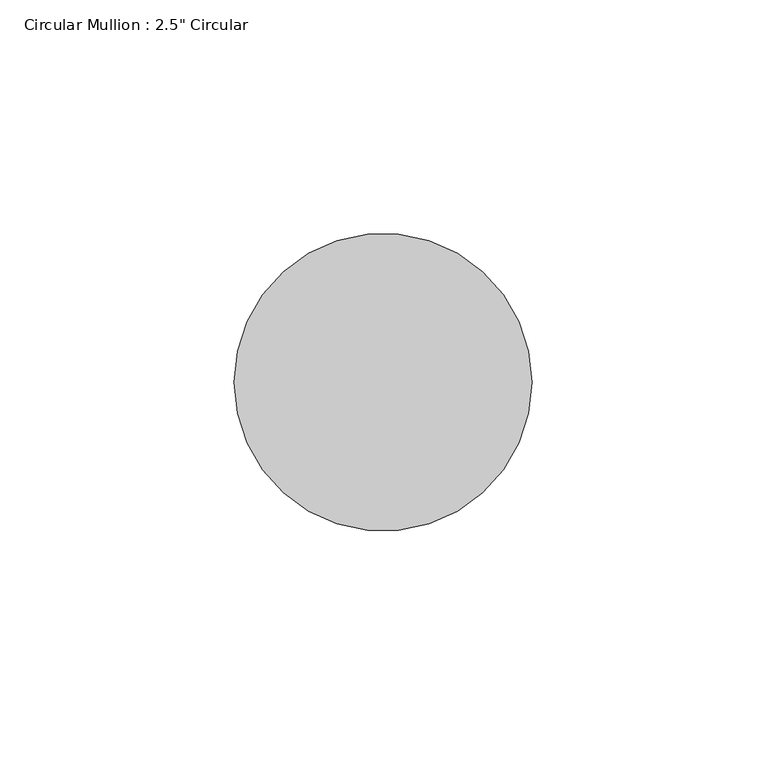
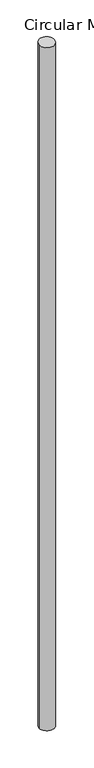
"""IFC4 building model written with IfcOpenShell, lengths in millimetres: member geometry."""

from ifc_helpers import new_model, si_unit, frame, origin, origin_with_axes, place, context, project, spatial, ellipse_curve, source, transform, mapped, element, save
from ifc_brep_helpers import plane_surface, cylinder_surface, advanced_brep


def member_2384c193(model_context):
    return source(origin(), model_context, "Body", "AdvancedBrep", [
        advanced_brep(
        [(-31.75, 0.0, -0.1934303), (31.75, 0.0, 0.1934303), (31.75, 0.0, -2984.1009331), (-31.75, 0.0, -2983.7686119)],
        [
            (0, 1, ellipse_curve(frame((0.0, 0.0, 0.0), z_axis=(0.006080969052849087, 0.060638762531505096, -0.9981412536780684), x_axis=(0.0995959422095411, 0.9931599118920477, 0.060942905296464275)), 31.8091251, 31.75)),
            (1, 2),
            (2, 3, ellipse_curve(frame((0.0, 0.0, -2983.9347725), z_axis=(0.005227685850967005, 0.04644329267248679, 0.9989072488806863), x_axis=(-0.11173203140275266, -0.9926387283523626, 0.04673658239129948)), 31.7847328, 31.75)),
            (3, 0),
            (1, 0, ellipse_curve(frame((0.0, 0.0, 0.0), z_axis=(0.006080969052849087, 0.060638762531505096, -0.9981412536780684), x_axis=(0.0995959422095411, 0.9931599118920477, 0.060942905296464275)), 31.8091251, 31.75)),
            (3, 2, ellipse_curve(frame((0.0, 0.0, -2983.9347725), z_axis=(0.005227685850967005, 0.04644329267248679, 0.9989072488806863), x_axis=(-0.11173203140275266, -0.9926387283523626, 0.04673658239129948)), 31.7847328, 31.75)),
        ],
        [
            cylinder_surface(origin_with_axes(), 31.75),
            plane_surface(frame((303.2788596, -30.4133739, 0.0), z_axis=(-0.006080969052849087, -0.060638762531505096, 0.9981412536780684), x_axis=(-0.09959594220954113, -0.9931599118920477, -0.060942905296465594))),
            plane_surface(frame((302.8872648, -34.0931785, -2983.9347725), z_axis=(-0.005227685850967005, -0.04644329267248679, -0.9989072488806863), x_axis=(-0.11173203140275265, -0.9926387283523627, 0.04673658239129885))),
        ],
        [
            (0, [[1, 2, 3, 4]]),
            (0, [[5, -4, 6, -2]]),
            (1, [[-1, -5]]),
            (2, [[-6, -3]]),
        ],
    ),
    ])


if __name__ == "__main__":
    model = new_model("IFC4")
    model_context = context("Model", 3, world=origin())
    ifc_project = project(units=[si_unit("LENGTHUNIT", "METRE", prefix="MILLI")], contexts=[model_context])
    site = spatial("IfcSite", under=ifc_project)
    building = spatial("IfcBuilding", under=site)
    placement = place(None, origin())
    member_shape = member_2384c193(model_context)
    element("IfcMember", 1, ObjectType="Circular Mullion : 2.5\" Circular", at=placement, inside=building, context=model_context, shape_type="MappedRepresentation", body=[
        mapped(member_shape, transform((0.0, 0.0, 0.0), x_axis=(1.0, 0.0, 0.0), y_axis=(0.0, 1.0, 0.0), z_axis=(0.0, 0.0, 1.0))),
    ])
    save(model, "model.ifc")
